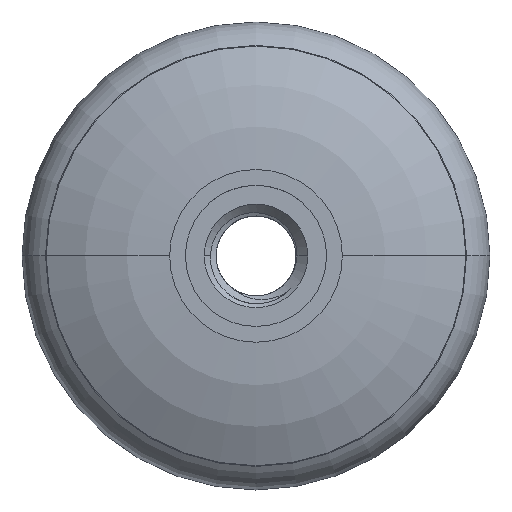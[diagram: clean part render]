
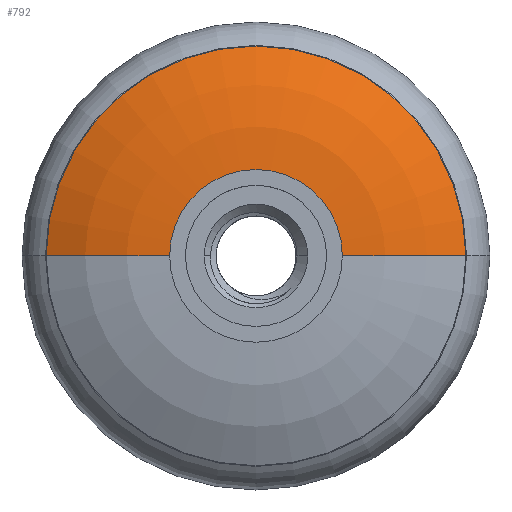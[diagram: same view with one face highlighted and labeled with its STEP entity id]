
A CAD part, top view. The second image highlights one B-rep face of the part: STEP entity #792.
In plain terms, the highlighted toroidal (fillet/blend) face has major radius 7.345 mm and minor radius 21 mm.
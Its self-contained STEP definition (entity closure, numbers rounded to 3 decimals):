
#10 = ORIENTED_EDGE ( 'NONE', *, *, #2532, .F. ) ;
#30 = DIRECTION ( 'NONE',  ( 0., 0., 1. ) ) ;
#129 = DIRECTION ( 'NONE',  ( 1., 0., 0. ) ) ;
#168 = VERTEX_POINT ( 'NONE', #1223 ) ;
#258 = DIRECTION ( 'NONE',  ( 0., 1., 0. ) ) ;
#458 = DIRECTION ( 'NONE',  ( 0., 0., -1. ) ) ;
#515 = VERTEX_POINT ( 'NONE', #1060 ) ;
#550 = CARTESIAN_POINT ( 'NONE',  ( 7.345, 0., 7.8 ) ) ;
#562 = CARTESIAN_POINT ( 'NONE',  ( -7.345, 0., 7.8 ) ) ;
#586 = ORIENTED_EDGE ( 'NONE', *, *, #4452, .F. ) ;
#594 = EDGE_CURVE ( 'NONE', #515, #2456, #3254, .T. ) ;
#792 = ADVANCED_FACE ( 'NONE', ( #2893 ), #1547, .T. ) ;
#883 = AXIS2_PLACEMENT_3D ( 'NONE', #550, #4082, #4109 ) ;
#1060 = CARTESIAN_POINT ( 'NONE',  ( -17.845, 0., 25.987 ) ) ;
#1223 = CARTESIAN_POINT ( 'NONE',  ( 7.345, 0., 28.8 ) ) ;
#1241 = DIRECTION ( 'NONE',  ( 0., 0., 1. ) ) ;
#1267 = CARTESIAN_POINT ( 'NONE',  ( 0., 0., 28.8 ) ) ;
#1386 = CARTESIAN_POINT ( 'NONE',  ( 0., 0., 7.8 ) ) ;
#1391 = ORIENTED_EDGE ( 'NONE', *, *, #2450, .F. ) ;
#1547 = TOROIDAL_SURFACE ( 'NONE', #3777, 7.345, 21. ) ;
#1652 = DIRECTION ( 'NONE',  ( 1., 0., 0. ) ) ;
#1959 = EDGE_LOOP ( 'NONE', ( #1391, #3850, #10, #586 ) ) ;
#2024 = DIRECTION ( 'NONE',  ( -1., 0., 0. ) ) ;
#2101 = AXIS2_PLACEMENT_3D ( 'NONE', #4569, #458, #1652 ) ;
#2450 = EDGE_CURVE ( 'NONE', #515, #4649, #3551, .T. ) ;
#2456 = VERTEX_POINT ( 'NONE', #2630 ) ;
#2532 = EDGE_CURVE ( 'NONE', #168, #2456, #4163, .T. ) ;
#2630 = CARTESIAN_POINT ( 'NONE',  ( -7.345, 0., 28.8 ) ) ;
#2893 = FACE_OUTER_BOUND ( 'NONE', #1959, .T. ) ;
#2915 = DIRECTION ( 'NONE',  ( 1., 0., 0. ) ) ;
#3164 = AXIS2_PLACEMENT_3D ( 'NONE', #562, #258, #2024 ) ;
#3254 = CIRCLE ( 'NONE', #3164, 21. ) ;
#3322 = CIRCLE ( 'NONE', #883, 21. ) ;
#3551 = CIRCLE ( 'NONE', #2101, 17.845 ) ;
#3777 = AXIS2_PLACEMENT_3D ( 'NONE', #1386, #30, #2915 ) ;
#3783 = CARTESIAN_POINT ( 'NONE',  ( 17.845, 0., 25.987 ) ) ;
#3850 = ORIENTED_EDGE ( 'NONE', *, *, #594, .T. ) ;
#4082 = DIRECTION ( 'NONE',  ( 0., -1., 0. ) ) ;
#4109 = DIRECTION ( 'NONE',  ( 0., 0., -1. ) ) ;
#4163 = CIRCLE ( 'NONE', #4540, 7.345 ) ;
#4452 = EDGE_CURVE ( 'NONE', #4649, #168, #3322, .T. ) ;
#4540 = AXIS2_PLACEMENT_3D ( 'NONE', #1267, #1241, #129 ) ;
#4569 = CARTESIAN_POINT ( 'NONE',  ( 0., 0., 25.987 ) ) ;
#4649 = VERTEX_POINT ( 'NONE', #3783 ) ;
